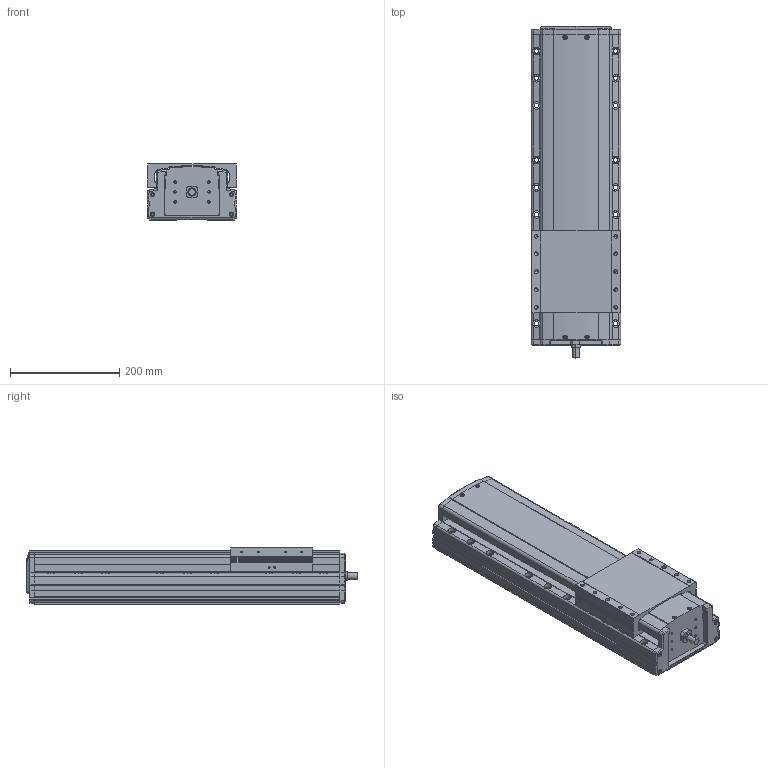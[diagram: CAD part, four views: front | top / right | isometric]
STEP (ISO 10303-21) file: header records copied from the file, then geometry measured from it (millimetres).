
FILE_DESCRIPTION(('STEP AP214'),'1');
FILE_NAME('Z:/Web/3D/PSA165/STP/PSA165-300 (3D)/PSA165ㅁㅁ-300.stp','2014-06-23T07:52:59',(' '),(' '),'Spatial InterOp 3D',' ',' ');
FILE_SCHEMA(('automotive_design'));
Length unit declared in the file: millimetre
Products named in the file (18): 스크루 : Round - M4.0 x 12.0; RRCV-PA160; BASE; 스크루 : Round - M4.0 x 10.0; RN15; Screw 20; SLIDE; FRCV
Bounding box: 165 x 608.8 x 104 mm (x, y, z)
Volume: 8121387 mm3; surface area: 580890.1 mm2
Topology: 18 solids, 18 shells, 1851 faces, 5021 edges, 3209 vertices
Faces by surface type: plane 1032, cylinder 585, cone 161, sphere 32, bspline 25, torus 16
Entity records: 75896 total; most frequent: CARTESIAN_POINT 13845, DIRECTION 9809, ORIENTED_EDGE 9806, EDGE_CURVE 4903, LINE 3355, VECTOR 3355, AXIS2_PLACEMENT_3D 3227, VERTEX_POINT 3209
